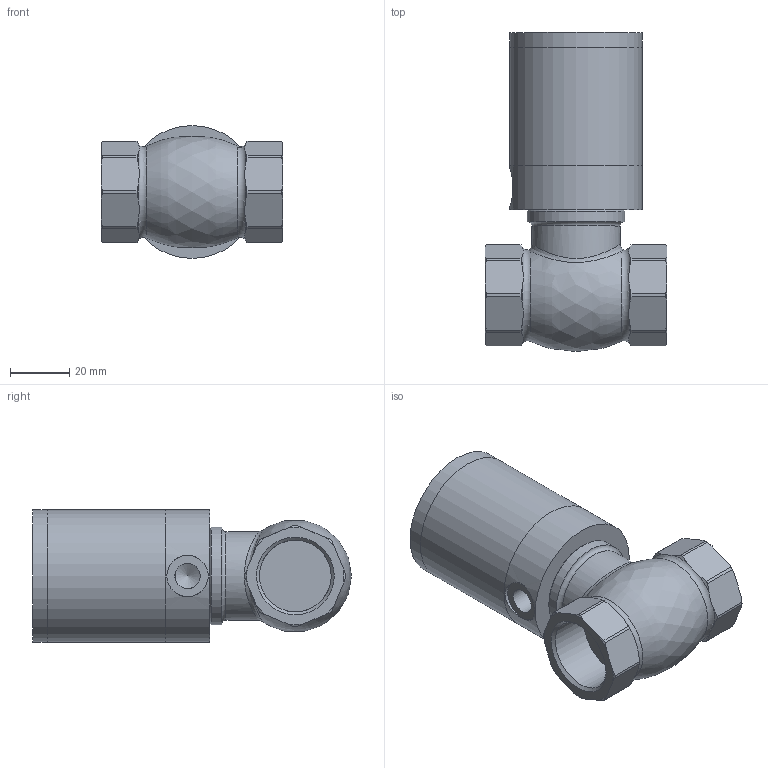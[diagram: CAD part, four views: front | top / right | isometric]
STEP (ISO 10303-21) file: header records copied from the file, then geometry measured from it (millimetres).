
FILE_DESCRIPTION(/* description */ (''),/* implementation_level */ '2;1');
FILE_NAME(/* name */ 'D:\OneDrive\Disegni Air Matic\Inventor\3D AerFlux base\AerFlux 34.stp',/* time_stamp */ '2020-06-03T16:15:34+02:00',/* author */ ('Alex'),/* organization */ (''),/* preprocessor_version */ 'ST-DEVELOPER v16.1',/* originating_system */ 'Autodesk Inventor 2016',/* authorisation */ '');
FILE_SCHEMA (('AUTOMOTIVE_DESIGN { 1 0 10303 214 3 1 1 }'));
Length unit declared in the file: millimetre
Products named in the file (5): Testa Anteriore VA34; Tubo VA1234; Testa Posteriore VA1234; SAICORPGDBO05; AerFlux 34
Assembly tree (4 placements, depth 2):
  AerFlux 34
    Testa Anteriore VA34
    Tubo VA1234
    Testa Posteriore VA1234
    SAICORPGDBO05
Bounding box: 61.5 x 108.02 x 45 mm (x, y, z)
Volume: 103416.2 mm3; surface area: 42478.4 mm2
Topology: 4 solids, 4 shells, 142 faces, 333 edges, 219 vertices
Faces by surface type: plane 63, cone 40, cylinder 32, bspline 4, torus 3
Full cylindrical faces by diameter (mm): 3 x1, 8.566 x1, 9 x1, 10.05 x1, 11.5 x2, 14 x1, 14.8 x2, 17 x1, 19 x1, 24.2 x1, 24.3 x2, 26 x1, 26.4 x1, 27 x2, 30 x1, 33 x1, 38 x2, 40 x1, 42 x4, 42.7 x2, 45 x3
Entity records: 5519 total; most frequent: CARTESIAN_POINT 2493, DIRECTION 610, ORIENTED_EDGE 560, EDGE_CURVE 280, AXIS2_PLACEMENT_3D 280, EDGE_LOOP 214, VERTEX_POINT 210, FACE_OUTER_BOUND 142
